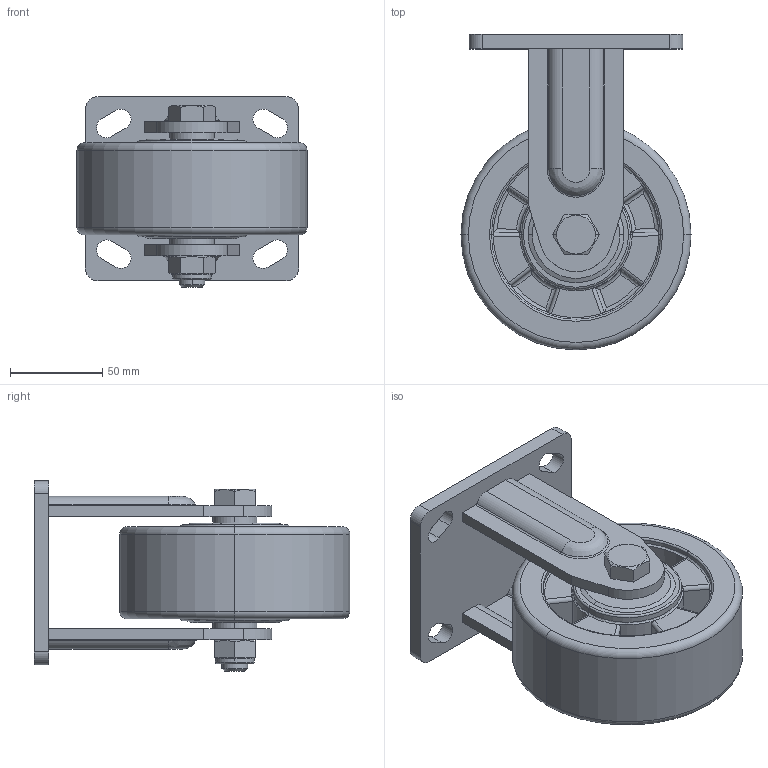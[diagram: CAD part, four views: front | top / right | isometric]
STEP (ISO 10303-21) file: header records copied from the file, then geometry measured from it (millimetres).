
FILE_DESCRIPTION((''),'2;1');
FILE_NAME('785-10_ASM','2020-07-09T',('lenovo'),(''),'PRO/ENGINEER BY PARAMETRIC TECHNOLOGY CORPORATION, 2010280','PRO/ENGINEER BY PARAMETRIC TECHNOLOGY CORPORATION, 2010280','');
FILE_SCHEMA(('CONFIG_CONTROL_DESIGN'));
Length unit declared in the file: millimetre
Products named in the file (6): 780C00; 785C10; 780-34; 780F-33-; 765-86A; 785-10_ASM
Assembly tree (5 placements, depth 2):
  785-10_ASM
    780C00
    785C10
    780-34
    780F-33-
    765-86A
Bounding box: 125 x 171.5 x 103.5 mm (x, y, z)
Volume: 640904.4 mm3; surface area: 138512.8 mm2
Topology: 6 solids, 6 shells, 301 faces, 722 edges, 440 vertices
Faces by surface type: cylinder 127, plane 97, torus 50, cone 16, bspline 11
Entity records: 11811 total; most frequent: CARTESIAN_POINT 4777, DIRECTION 1449, ORIENTED_EDGE 1444, EDGE_CURVE 722, AXIS2_PLACEMENT_3D 571, VERTEX_POINT 440, EDGE_LOOP 324, VECTOR 307
